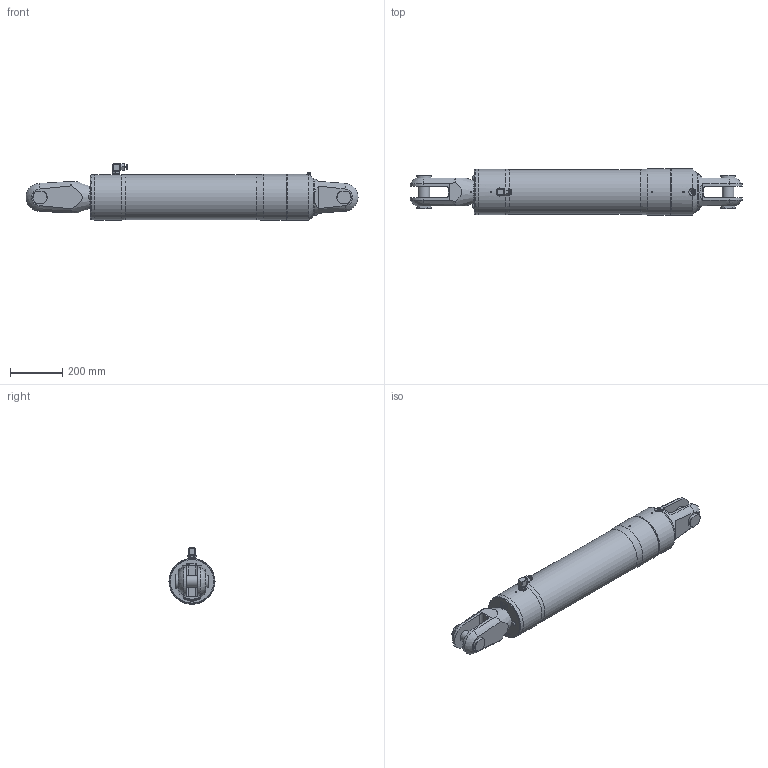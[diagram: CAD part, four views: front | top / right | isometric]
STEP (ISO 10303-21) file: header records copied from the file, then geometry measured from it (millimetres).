
FILE_DESCRIPTION(/* description */ (''),/* implementation_level */ '2;1');
FILE_NAME(/* name */ 'Q:\AA BRAND HYDRAULICS\HYDRAULICS FAMILY DIRECTORY\HYDRAULICS\CYLINDERS\RAMS\STAINLESS - STANDARD SINGLE ACTING (-0006 To -0260)\RSS-0150-S0475-NP-71\RSS-0150-S0475-NP-71 (Closed).stp',/* time_stamp */ '2018-02-07T17:22:32+00:00',/* author */ ('Lorena'),/* organization */ (''),/* preprocessor_version */ 'ST-DEVELOPER v17',/* originating_system */ 'Autodesk Inventor 2018',/* authorisation */ '');
FILE_SCHEMA (('AUTOMOTIVE_DESIGN { 1 0 10303 214 3 1 1 }'));
Length unit declared in the file: millimetre
Products named in the file (1): RSS-0150-S0475-NP-71 (Closed)
Bounding box: 1272.55 x 176.4 x 217.3 mm (x, y, z)
Volume: 23264184.2 mm3; surface area: 726377.2 mm2
Topology: 2 solids, 6 shells, 1789 faces, 4815 edges, 3186 vertices
Faces by surface type: plane 1013, bspline 574, cone 112, cylinder 82, torus 4, sphere 4
Full cylindrical faces by diameter (mm): 4 x1, 5 x4, 7 x1, 9 x1, 9.9 x1, 10 x4, 11 x2, 11.1 x1, 18.9 x1, 19 x3, 19.11 x1, 19.9 x1, 20 x1, 20.9 x2, 22 x2, 24 x2, 27.8 x3, 30 x1, 44.45 x2, 50 x1, 52 x1, 55.562 x2, 169.8 x1, 171.4 x1, 174.4 x1, 175.4 x1, 176.4 x2
Entity records: 63914 total; most frequent: CARTESIAN_POINT 21463, ORIENTED_EDGE 9618, DIRECTION 6330, EDGE_CURVE 4809, VERTEX_POINT 3189, LINE 2972, VECTOR 2972, EDGE_LOOP 1958
